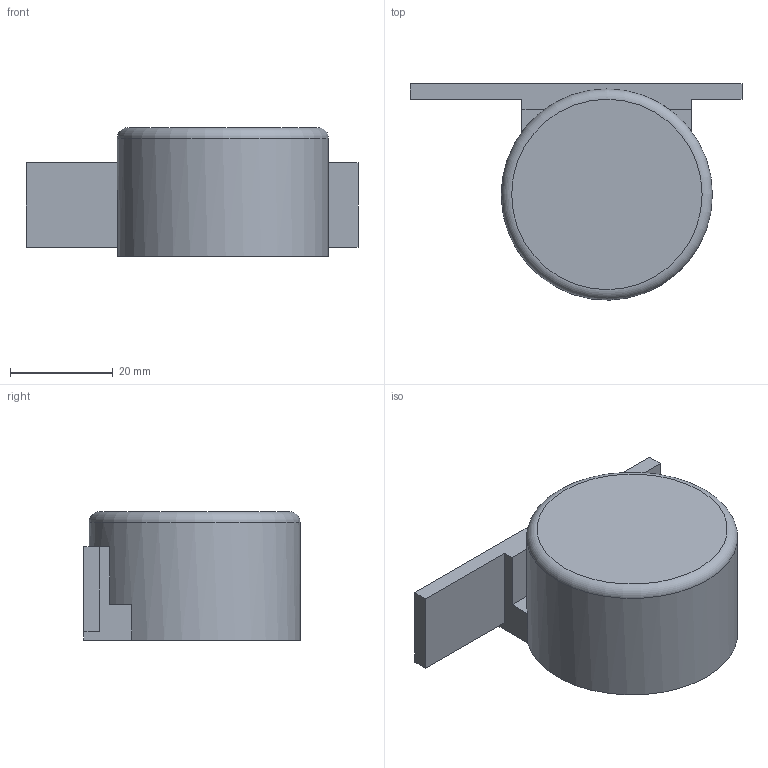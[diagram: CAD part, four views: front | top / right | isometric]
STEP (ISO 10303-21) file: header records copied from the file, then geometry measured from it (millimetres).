
FILE_DESCRIPTION(('Open CASCADE Model'),'2;1');
FILE_NAME('Open CASCADE Shape Model','2026-11-01T16:34:16',('Author'),( 'Open CASCADE'),'Open CASCADE STEP processor 8.0','build123d', 'Unknown');
FILE_SCHEMA(('AUTOMOTIVE_DESIGN { 1 0 10303 214 1 1 1 1 }'));
Length unit declared in the file: millimetre
Products named in the file (1): SOLID
Bounding box: 64.5 x 42 x 24.95 mm (x, y, z)
Volume: 10364.2 mm3; surface area: 12661.9 mm2
Topology: 1 solids, 1 shells, 36 faces, 101 edges, 67 vertices
Faces by surface type: plane 31, cylinder 4, torus 1
Full cylindrical faces by diameter (mm): 31 x1, 38 x1, 41 x1
Entity records: 2443 total; most frequent: CARTESIAN_POINT 464, DIRECTION 348, LINE 224, VECTOR 224, ORIENTED_EDGE 202, PCURVE 202, DEFINITIONAL_REPRESENTATION 202, EDGE_CURVE 101
